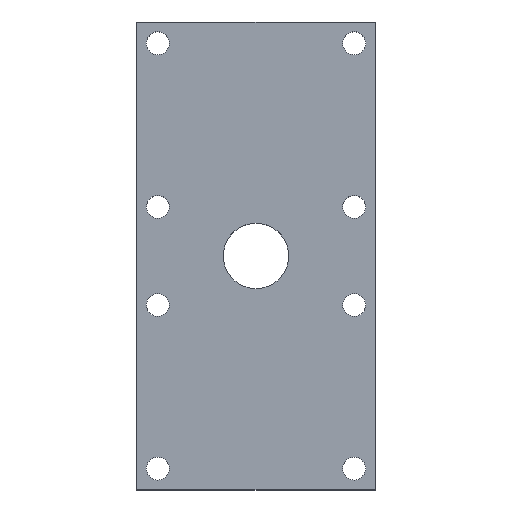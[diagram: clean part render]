
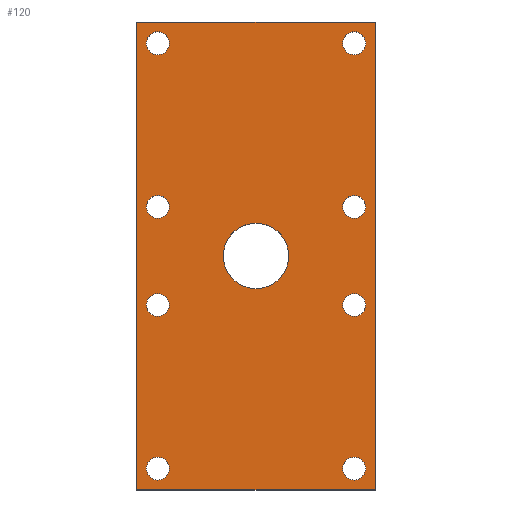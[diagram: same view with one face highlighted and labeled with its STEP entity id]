
A CAD part, top view. The second image highlights one B-rep face of the part: STEP entity #120.
In plain terms, the highlighted planar face has unit normal (0, 0, 1).
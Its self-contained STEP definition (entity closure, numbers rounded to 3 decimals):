
#77=FACE_BOUND('',#162,.T.);
#78=FACE_BOUND('',#163,.T.);
#79=FACE_BOUND('',#164,.T.);
#80=FACE_BOUND('',#165,.T.);
#81=FACE_BOUND('',#166,.T.);
#82=FACE_BOUND('',#167,.T.);
#83=FACE_BOUND('',#168,.T.);
#84=FACE_BOUND('',#169,.T.);
#85=FACE_BOUND('',#170,.T.);
#86=FACE_BOUND('',#171,.T.);
#90=CIRCLE('',#319,3.5);
#92=CIRCLE('',#322,3.5);
#94=CIRCLE('',#325,3.5);
#96=CIRCLE('',#328,3.5);
#98=CIRCLE('',#331,3.5);
#100=CIRCLE('',#334,3.5);
#102=CIRCLE('',#337,3.5);
#104=CIRCLE('',#340,3.5);
#106=CIRCLE('',#345,10.);
#120=ADVANCED_FACE('',(#77,#78,#79,#80,#81,#82,#83,#84,#85,#86),#127,.T.);
#127=PLANE('',#346);
#162=EDGE_LOOP('',(#219));
#163=EDGE_LOOP('',(#220));
#164=EDGE_LOOP('',(#221));
#165=EDGE_LOOP('',(#222));
#166=EDGE_LOOP('',(#223));
#167=EDGE_LOOP('',(#224));
#168=EDGE_LOOP('',(#225));
#169=EDGE_LOOP('',(#226));
#170=EDGE_LOOP('',(#227));
#171=EDGE_LOOP('',(#228,#229,#230,#231));
#219=ORIENTED_EDGE('',*,*,#289,.T.);
#220=ORIENTED_EDGE('',*,*,#285,.F.);
#221=ORIENTED_EDGE('',*,*,#283,.F.);
#222=ORIENTED_EDGE('',*,*,#281,.F.);
#223=ORIENTED_EDGE('',*,*,#279,.F.);
#224=ORIENTED_EDGE('',*,*,#277,.F.);
#225=ORIENTED_EDGE('',*,*,#275,.F.);
#226=ORIENTED_EDGE('',*,*,#273,.F.);
#227=ORIENTED_EDGE('',*,*,#271,.F.);
#228=ORIENTED_EDGE('',*,*,#260,.T.);
#229=ORIENTED_EDGE('',*,*,#286,.T.);
#230=ORIENTED_EDGE('',*,*,#267,.T.);
#231=ORIENTED_EDGE('',*,*,#264,.T.);
#234=VERTEX_POINT('',#430);
#235=VERTEX_POINT('',#431);
#238=VERTEX_POINT('',#439);
#240=VERTEX_POINT('',#445);
#243=VERTEX_POINT('',#453);
#245=VERTEX_POINT('',#458);
#247=VERTEX_POINT('',#463);
#249=VERTEX_POINT('',#468);
#251=VERTEX_POINT('',#473);
#253=VERTEX_POINT('',#478);
#255=VERTEX_POINT('',#483);
#257=VERTEX_POINT('',#488);
#259=VERTEX_POINT('',#497);
#260=EDGE_CURVE('',#234,#235,#290,.T.);
#264=EDGE_CURVE('',#238,#234,#294,.T.);
#267=EDGE_CURVE('',#240,#238,#297,.T.);
#271=EDGE_CURVE('',#243,#243,#90,.T.);
#273=EDGE_CURVE('',#245,#245,#92,.T.);
#275=EDGE_CURVE('',#247,#247,#94,.T.);
#277=EDGE_CURVE('',#249,#249,#96,.T.);
#279=EDGE_CURVE('',#251,#251,#98,.T.);
#281=EDGE_CURVE('',#253,#253,#100,.T.);
#283=EDGE_CURVE('',#255,#255,#102,.T.);
#285=EDGE_CURVE('',#257,#257,#104,.T.);
#286=EDGE_CURVE('',#235,#240,#300,.T.);
#289=EDGE_CURVE('',#259,#259,#106,.T.);
#290=LINE('',#429,#302);
#294=LINE('',#438,#306);
#297=LINE('',#444,#309);
#300=LINE('',#490,#312);
#302=VECTOR('',#350,1.);
#306=VECTOR('',#356,1.);
#309=VECTOR('',#361,1.);
#312=VECTOR('',#414,1.);
#319=AXIS2_PLACEMENT_3D('',#452,#368,#369);
#322=AXIS2_PLACEMENT_3D('',#457,#374,#375);
#325=AXIS2_PLACEMENT_3D('',#462,#380,#381);
#328=AXIS2_PLACEMENT_3D('',#467,#386,#387);
#331=AXIS2_PLACEMENT_3D('',#472,#392,#393);
#334=AXIS2_PLACEMENT_3D('',#477,#398,#399);
#337=AXIS2_PLACEMENT_3D('',#482,#404,#405);
#340=AXIS2_PLACEMENT_3D('',#487,#410,#411);
#345=AXIS2_PLACEMENT_3D('',#496,#422,#423);
#346=AXIS2_PLACEMENT_3D('',#498,#424,#425);
#350=DIRECTION('',(1.,0.,0.));
#356=DIRECTION('',(0.,-1.,0.));
#361=DIRECTION('',(-1.,0.,0.));
#368=DIRECTION('',(0.,0.,1.));
#369=DIRECTION('',(1.,0.,0.));
#374=DIRECTION('',(0.,0.,1.));
#375=DIRECTION('',(1.,0.,0.));
#380=DIRECTION('',(0.,0.,1.));
#381=DIRECTION('',(1.,0.,0.));
#386=DIRECTION('',(0.,0.,1.));
#387=DIRECTION('',(1.,0.,0.));
#392=DIRECTION('',(0.,0.,1.));
#393=DIRECTION('',(1.,0.,0.));
#398=DIRECTION('',(0.,0.,1.));
#399=DIRECTION('',(1.,0.,0.));
#404=DIRECTION('',(0.,0.,1.));
#405=DIRECTION('',(1.,0.,0.));
#410=DIRECTION('',(0.,0.,1.));
#411=DIRECTION('',(1.,0.,0.));
#414=DIRECTION('',(0.,1.,0.));
#422=DIRECTION('',(0.,0.,-1.));
#423=DIRECTION('',(-1.,0.,0.));
#424=DIRECTION('',(0.,0.,1.));
#425=DIRECTION('',(1.,0.,0.));
#429=CARTESIAN_POINT('',(-36.5,-71.5,-10.));
#430=CARTESIAN_POINT('',(-36.5,-71.5,-10.));
#431=CARTESIAN_POINT('',(36.5,-71.5,-10.));
#438=CARTESIAN_POINT('',(-36.5,71.5,-10.));
#439=CARTESIAN_POINT('',(-36.5,71.5,-10.));
#444=CARTESIAN_POINT('',(36.5,71.5,-10.));
#445=CARTESIAN_POINT('',(36.5,71.5,-10.));
#452=CARTESIAN_POINT('',(-30.,-15.,-10.));
#453=CARTESIAN_POINT('',(-26.5,-15.,-10.));
#457=CARTESIAN_POINT('',(-30.,-65.,-10.));
#458=CARTESIAN_POINT('',(-26.5,-65.,-10.));
#462=CARTESIAN_POINT('',(30.,-15.,-10.));
#463=CARTESIAN_POINT('',(33.5,-15.,-10.));
#467=CARTESIAN_POINT('',(30.,-65.,-10.));
#468=CARTESIAN_POINT('',(33.5,-65.,-10.));
#472=CARTESIAN_POINT('',(30.,15.,-10.));
#473=CARTESIAN_POINT('',(33.5,15.,-10.));
#477=CARTESIAN_POINT('',(30.,65.,-10.));
#478=CARTESIAN_POINT('',(33.5,65.,-10.));
#482=CARTESIAN_POINT('',(-30.,65.,-10.));
#483=CARTESIAN_POINT('',(-26.5,65.,-10.));
#487=CARTESIAN_POINT('',(-30.,15.,-10.));
#488=CARTESIAN_POINT('',(-26.5,15.,-10.));
#490=CARTESIAN_POINT('',(36.5,-71.5,-10.));
#496=CARTESIAN_POINT('',(0.,0.,-10.));
#497=CARTESIAN_POINT('',(-10.,0.,-10.));
#498=CARTESIAN_POINT('',(0.,0.,-10.));
